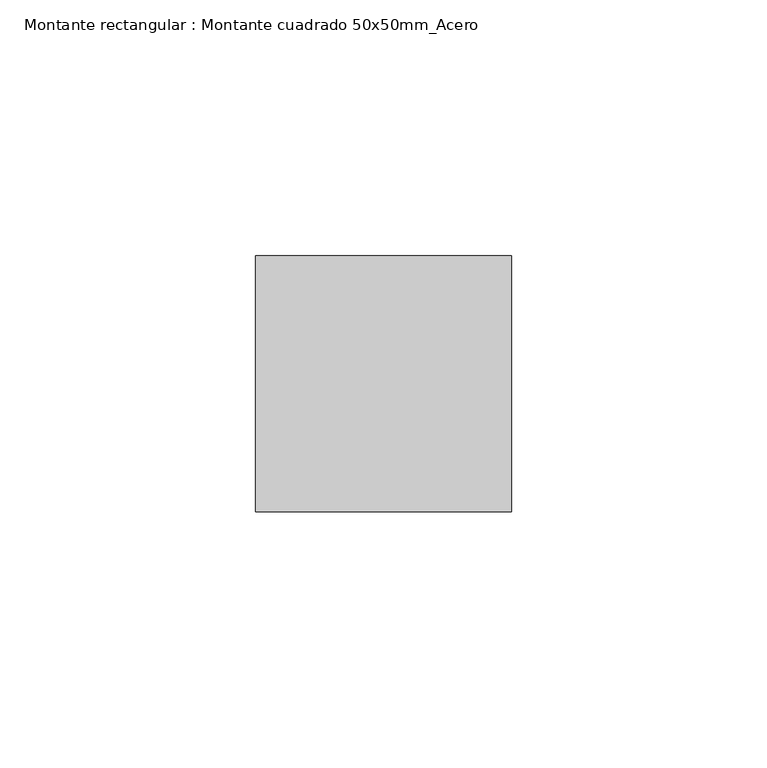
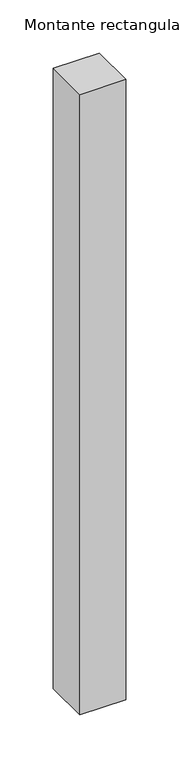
"""IFC4 building model written with IfcOpenShell, lengths in millimetres: member geometry, Montante rectangular : Montante cuadrado 50x50mm_Acero."""

from ifc_helpers import new_model, si_unit, frame, origin, place, context, project, spatial, polyline, outline, extrude, source, transform, mapped, element, save


def montante_rectangular_montante_cuadrado_50x50mm_acero_ac485ab6(model_context):
    return source(origin(), model_context, "Body", "SweptSolid", [
        extrude(outline(polyline([(-50.0, 0.0), (-50.0, 50.0), (0.0, 50.0), (0.0, 0.0), (-50.0, 0.0)])), frame((0.0, 0.0, -713.4722645), z_axis=(0.0, 0.0, 1.0), x_axis=(1.0, 0.0, 0.0)), (0.0, 0.0, 1.0), 713.4722645),
    ])


if __name__ == "__main__":
    model = new_model("IFC4")
    model_context = context("Model", 3, world=origin())
    ifc_project = project(units=[si_unit("LENGTHUNIT", "METRE", prefix="MILLI")], contexts=[model_context])
    site = spatial("IfcSite", under=ifc_project)
    building = spatial("IfcBuilding", under=site)
    placement = place(None, origin())
    montante_rectangular_montante_cuadrado_50x50mm_acero_shape = montante_rectangular_montante_cuadrado_50x50mm_acero_ac485ab6(model_context)
    element("IfcMember", 1, ObjectType="Montante rectangular : Montante cuadrado 50x50mm_Acero", at=placement, inside=building, context=model_context, shape_type="MappedRepresentation", body=[
        mapped(montante_rectangular_montante_cuadrado_50x50mm_acero_shape, transform((0.0, 0.0, 0.0), x_axis=(1.0, 0.0, 0.0), y_axis=(0.0, 1.0, 0.0), z_axis=(0.0, 0.0, 1.0))),
    ])
    save(model, "model.ifc")
